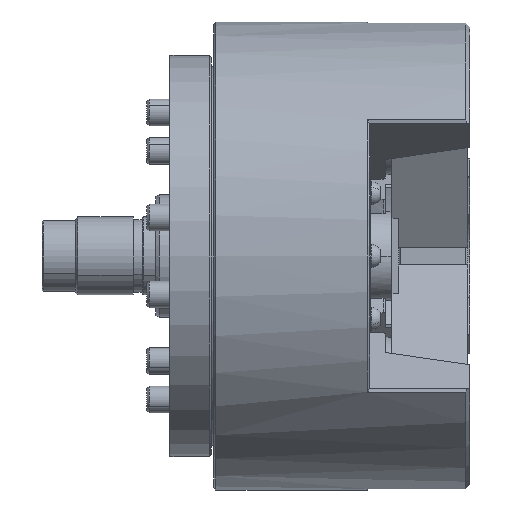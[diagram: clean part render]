
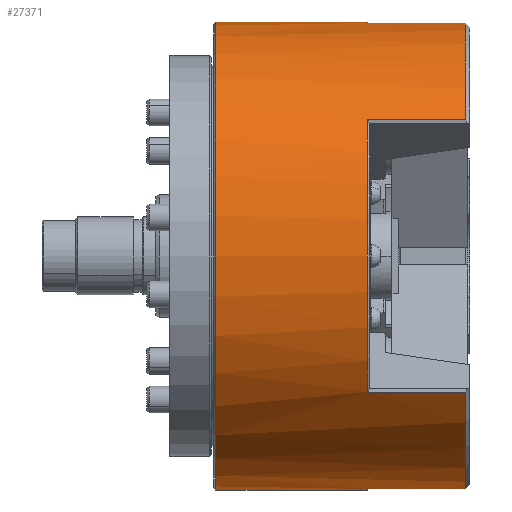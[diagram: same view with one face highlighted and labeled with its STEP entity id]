
A CAD part, front view. The second image highlights one B-rep face of the part: STEP entity #27371.
In plain terms, the highlighted cylindrical face has radius 105 mm (diameter 210 mm), a partial arc.
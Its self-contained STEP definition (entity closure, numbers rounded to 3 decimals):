
#486 = DIRECTION ( 'NONE',  ( -1., 0., 0. ) ) ;
#523 = VERTEX_POINT ( 'NONE', #4284 ) ;
#998 = DIRECTION ( 'NONE',  ( 1., 0., 0. ) ) ;
#1054 = LINE ( 'NONE', #13792, #7850 ) ;
#1069 = EDGE_LOOP ( 'NONE', ( #30432, #30671, #30765, #31043, #31102, #31506, #31630, #32180, #32536, #32739, #33106, #33578 ) ) ;
#1077 = AXIS2_PLACEMENT_3D ( 'NONE', #13356, #32758, #16192 ) ;
#1403 = DIRECTION ( 'NONE',  ( 0., 0., -1. ) ) ;
#2445 = DIRECTION ( 'NONE',  ( 1., 0., 0. ) ) ;
#2764 = VERTEX_POINT ( 'NONE', #6029 ) ;
#3832 = DIRECTION ( 'NONE',  ( 1., 0., 0. ) ) ;
#4284 = CARTESIAN_POINT ( 'NONE',  ( -68.5, 0., 105. ) ) ;
#6029 = CARTESIAN_POINT ( 'NONE',  ( -68.5, 0., -105. ) ) ;
#6460 = CIRCLE ( 'NONE', #23123, 105. ) ;
#6519 = CARTESIAN_POINT ( 'NONE',  ( 43.5, -10.142, 104.509 ) ) ;
#6665 = VERTEX_POINT ( 'NONE', #17944 ) ;
#6685 = LINE ( 'NONE', #34131, #20744 ) ;
#6867 = AXIS2_PLACEMENT_3D ( 'NONE', #31676, #28912, #12245 ) ;
#7116 = VECTOR ( 'NONE', #16494, 1000. ) ;
#7736 = CARTESIAN_POINT ( 'NONE',  ( -0.486, 0., 0. ) ) ;
#7850 = VECTOR ( 'NONE', #33414, 1000. ) ;
#7919 = EDGE_CURVE ( 'NONE', #30341, #8769, #6685, .T. ) ;
#8163 = EDGE_CURVE ( 'NONE', #35867, #12684, #35915, .T. ) ;
#8344 = EDGE_CURVE ( 'NONE', #30341, #15953, #30701, .T. ) ;
#8769 = VERTEX_POINT ( 'NONE', #33943 ) ;
#9081 = DIRECTION ( 'NONE',  ( -1., 0., 0. ) ) ;
#9925 = CARTESIAN_POINT ( 'NONE',  ( 43.5, -85.436, -61.038 ) ) ;
#9995 = CARTESIAN_POINT ( 'NONE',  ( 63.843, -85.436, 61.038 ) ) ;
#10318 = CARTESIAN_POINT ( 'NONE',  ( -0.486, 0., -105. ) ) ;
#10644 = DIRECTION ( 'NONE',  ( 0., 0., -1. ) ) ;
#11312 = CIRCLE ( 'NONE', #1077, 105. ) ;
#11378 = FACE_OUTER_BOUND ( 'NONE', #1069, .T. ) ;
#12245 = DIRECTION ( 'NONE',  ( 0., 0., -1. ) ) ;
#12261 = CARTESIAN_POINT ( 'NONE',  ( -0.486, 0., 105. ) ) ;
#12406 = LINE ( 'NONE', #31887, #19801 ) ;
#12684 = VERTEX_POINT ( 'NONE', #36171 ) ;
#12727 = LINE ( 'NONE', #30209, #34862 ) ;
#13356 = CARTESIAN_POINT ( 'NONE',  ( -0.486, 0., 0. ) ) ;
#13598 = DIRECTION ( 'NONE',  ( 1., 0., 0. ) ) ;
#13792 = CARTESIAN_POINT ( 'NONE',  ( 63.843, -10.142, -104.509 ) ) ;
#14683 = EDGE_CURVE ( 'NONE', #523, #2764, #6460, .T. ) ;
#15371 = EDGE_CURVE ( 'NONE', #2764, #35941, #12727, .T. ) ;
#15478 = CARTESIAN_POINT ( 'NONE',  ( -0.486, -10.142, -104.509 ) ) ;
#15576 = AXIS2_PLACEMENT_3D ( 'NONE', #25930, #9081, #28656 ) ;
#15953 = VERTEX_POINT ( 'NONE', #16623 ) ;
#16192 = DIRECTION ( 'NONE',  ( 0., 0., -1. ) ) ;
#16494 = DIRECTION ( 'NONE',  ( -1., 0., 0. ) ) ;
#16623 = CARTESIAN_POINT ( 'NONE',  ( 43.5, -85.436, 61.038 ) ) ;
#16863 = VERTEX_POINT ( 'NONE', #12261 ) ;
#16930 = EDGE_CURVE ( 'NONE', #35867, #23228, #34332, .T. ) ;
#17032 = EDGE_CURVE ( 'NONE', #8769, #16863, #11312, .T. ) ;
#17944 = CARTESIAN_POINT ( 'NONE',  ( -0.486, -85.436, 61.038 ) ) ;
#17950 = CYLINDRICAL_SURFACE ( 'NONE', #6867, 105. ) ;
#18456 = DIRECTION ( 'NONE',  ( 1., 0., 0. ) ) ;
#19447 = CARTESIAN_POINT ( 'NONE',  ( -68.5, 0., 0. ) ) ;
#19801 = VECTOR ( 'NONE', #998, 1000. ) ;
#20447 = CIRCLE ( 'NONE', #21265, 105. ) ;
#20744 = VECTOR ( 'NONE', #486, 1000. ) ;
#20774 = CARTESIAN_POINT ( 'NONE',  ( 43.5, 0., 0. ) ) ;
#21265 = AXIS2_PLACEMENT_3D ( 'NONE', #7736, #27377, #10644 ) ;
#22250 = DIRECTION ( 'NONE',  ( 0., 0., -1. ) ) ;
#22955 = VERTEX_POINT ( 'NONE', #15478 ) ;
#22980 = AXIS2_PLACEMENT_3D ( 'NONE', #20774, #3832, #23619 ) ;
#23123 = AXIS2_PLACEMENT_3D ( 'NONE', #19447, #2445, #22250 ) ;
#23228 = VERTEX_POINT ( 'NONE', #28214 ) ;
#23619 = DIRECTION ( 'NONE',  ( 0., 0., -1. ) ) ;
#23742 = EDGE_CURVE ( 'NONE', #523, #16863, #12406, .T. ) ;
#24757 = EDGE_CURVE ( 'NONE', #6665, #15953, #26777, .T. ) ;
#25917 = VECTOR ( 'NONE', #29481, 1000. ) ;
#25930 = CARTESIAN_POINT ( 'NONE',  ( -0.486, 0., 0. ) ) ;
#26220 = EDGE_CURVE ( 'NONE', #22955, #23228, #1054, .T. ) ;
#26474 = AXIS2_PLACEMENT_3D ( 'NONE', #35050, #18456, #1403 ) ;
#26777 = LINE ( 'NONE', #9995, #25917 ) ;
#27371 = ADVANCED_FACE ( 'NONE', ( #11378 ), #17950, .T. ) ;
#27377 = DIRECTION ( 'NONE',  ( -1., 0., 0. ) ) ;
#27509 = CIRCLE ( 'NONE', #15576, 105. ) ;
#27556 = CARTESIAN_POINT ( 'NONE',  ( 63.843, -85.436, -61.038 ) ) ;
#28214 = CARTESIAN_POINT ( 'NONE',  ( 43.5, -10.142, -104.509 ) ) ;
#28656 = DIRECTION ( 'NONE',  ( 0., 0., -1. ) ) ;
#28912 = DIRECTION ( 'NONE',  ( 1., 0., 0. ) ) ;
#29481 = DIRECTION ( 'NONE',  ( 1., 0., 0. ) ) ;
#30209 = CARTESIAN_POINT ( 'NONE',  ( 63.843, 0., -105. ) ) ;
#30341 = VERTEX_POINT ( 'NONE', #6519 ) ;
#30432 = ORIENTED_EDGE ( 'NONE', *, *, #23742, .F. ) ;
#30671 = ORIENTED_EDGE ( 'NONE', *, *, #14683, .T. ) ;
#30701 = CIRCLE ( 'NONE', #22980, 105. ) ;
#30765 = ORIENTED_EDGE ( 'NONE', *, *, #15371, .T. ) ;
#31043 = ORIENTED_EDGE ( 'NONE', *, *, #35372, .T. ) ;
#31102 = ORIENTED_EDGE ( 'NONE', *, *, #26220, .T. ) ;
#31506 = ORIENTED_EDGE ( 'NONE', *, *, #16930, .F. ) ;
#31630 = ORIENTED_EDGE ( 'NONE', *, *, #8163, .T. ) ;
#31676 = CARTESIAN_POINT ( 'NONE',  ( 63.843, 0., 0. ) ) ;
#31887 = CARTESIAN_POINT ( 'NONE',  ( 63.843, 0., 105. ) ) ;
#32082 = EDGE_CURVE ( 'NONE', #12684, #6665, #20447, .T. ) ;
#32180 = ORIENTED_EDGE ( 'NONE', *, *, #32082, .T. ) ;
#32536 = ORIENTED_EDGE ( 'NONE', *, *, #24757, .T. ) ;
#32739 = ORIENTED_EDGE ( 'NONE', *, *, #8344, .F. ) ;
#32758 = DIRECTION ( 'NONE',  ( -1., 0., 0. ) ) ;
#33106 = ORIENTED_EDGE ( 'NONE', *, *, #7919, .T. ) ;
#33414 = DIRECTION ( 'NONE',  ( 1., 0., 0. ) ) ;
#33578 = ORIENTED_EDGE ( 'NONE', *, *, #17032, .T. ) ;
#33943 = CARTESIAN_POINT ( 'NONE',  ( -0.486, -10.142, 104.509 ) ) ;
#34131 = CARTESIAN_POINT ( 'NONE',  ( 63.843, -10.142, 104.509 ) ) ;
#34332 = CIRCLE ( 'NONE', #26474, 105. ) ;
#34862 = VECTOR ( 'NONE', #13598, 1000. ) ;
#35050 = CARTESIAN_POINT ( 'NONE',  ( 43.5, 0., 0. ) ) ;
#35372 = EDGE_CURVE ( 'NONE', #35941, #22955, #27509, .T. ) ;
#35867 = VERTEX_POINT ( 'NONE', #9925 ) ;
#35915 = LINE ( 'NONE', #27556, #7116 ) ;
#35941 = VERTEX_POINT ( 'NONE', #10318 ) ;
#36171 = CARTESIAN_POINT ( 'NONE',  ( -0.486, -85.436, -61.038 ) ) ;
